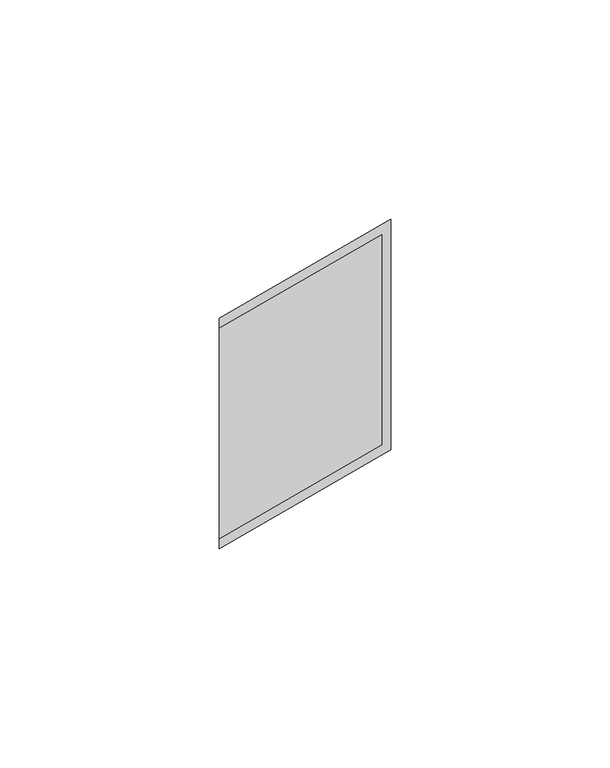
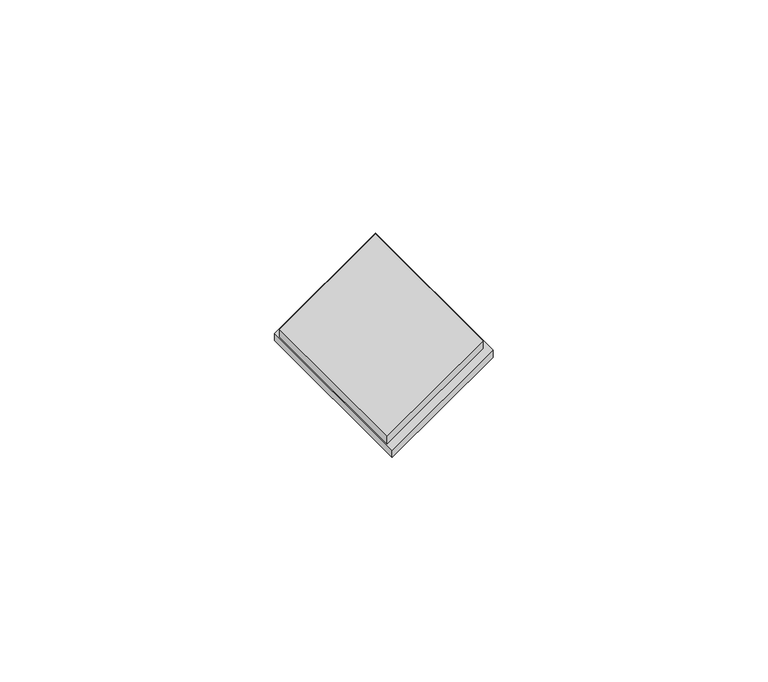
"""IFC4 building model written with IfcOpenShell, lengths in millimetres: proxy geometry, PBSHOP - CUBICA ARGENTO 4,8X8,3 : CUBICA ARGENTO - POSIÇÃO 01."""

from ifc_helpers import new_model, si_unit, frame, origin, origin_with_axes, place, context, project, spatial, polyline, outline, extrude, source, transform, mapped, element, save


def generic_models_61989c10(model_context):
    return source(origin(), model_context, "Body", "SweptSolid", [
        extrude(outline(polyline([(22.7119765, -13.1167077), (-16.3076581, -35.6447042), (-16.3076581, 16.8941703), (22.7119765, 39.4221668), (22.7119765, -13.1167077)])), origin_with_axes(), (0.0, 0.0, 1.0), 2.0),
        extrude(outline(polyline([(20.7119765, -11.9620071), (-16.3076581, -33.3353032), (-16.3076581, 14.5847692), (20.7119765, 35.9580652), (20.7119765, -11.9620071)])), frame((0.0, 0.0, 2.0), z_axis=(0.0, 0.0, 1.0), x_axis=(1.0, 0.0, 0.0)), (0.0, 0.0, 1.0), 2.5),
    ])


if __name__ == "__main__":
    model = new_model("IFC4")
    model_context = context("Model", 3, world=origin())
    ifc_project = project(units=[si_unit("LENGTHUNIT", "METRE", prefix="MILLI")], contexts=[model_context])
    site = spatial("IfcSite", under=ifc_project)
    building = spatial("IfcBuilding", under=site)
    placement = place(None, origin())
    generic_models_shape = generic_models_61989c10(model_context)
    element("IfcBuildingElementProxy", 1, Name="PBSHOP - CUBICA ARGENTO 4,8X8,3 : CUBICA ARGENTO - POSIÇÃO 01", ObjectType="PBSHOP - CUBICA ARGENTO 4,8X8,3 : CUBICA ARGENTO - POSIÇÃO 01", at=placement, inside=building, context=model_context, shape_type="MappedRepresentation", body=[
        mapped(generic_models_shape, transform((0.0, 0.0, 0.0), x_axis=(1.0, 0.0, 0.0), y_axis=(0.0, 1.0, 0.0), z_axis=(0.0, 0.0, 1.0))),
    ])
    save(model, "model.ifc")
